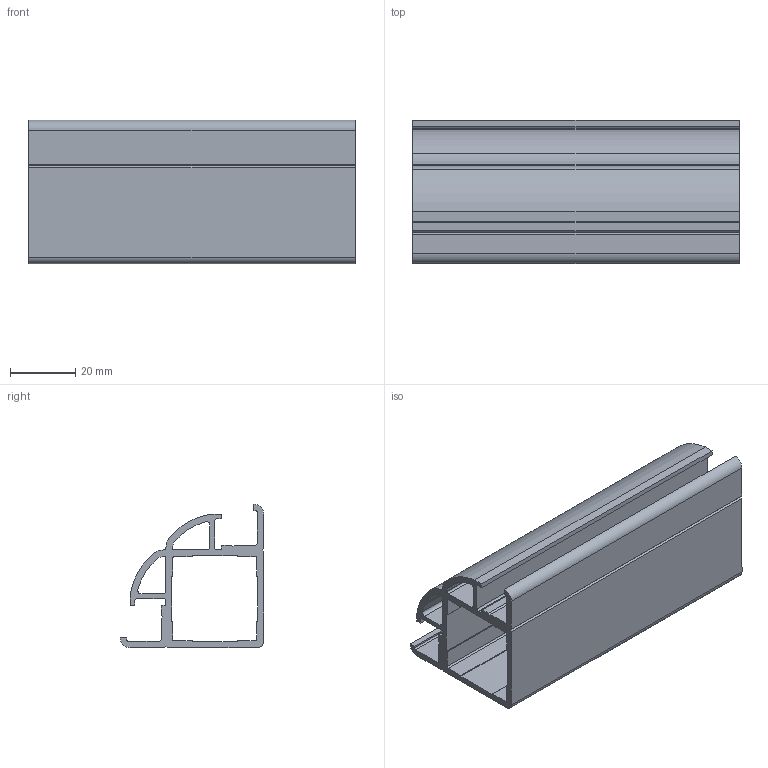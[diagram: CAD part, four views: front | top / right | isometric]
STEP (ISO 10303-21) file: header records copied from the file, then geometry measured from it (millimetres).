
FILE_DESCRIPTION (( 'STEP AP203' ), '1' );
FILE_NAME ('B30033A.STEP', '2017-03-22T11:29:55', ( 'Localadmin' ), ( 'Microsoft' ), 'SwSTEP 2.0', 'SolidWorks 2016', '' );
FILE_SCHEMA (( 'CONFIG_CONTROL_DESIGN' ));
Length unit declared in the file: millimetre
Products named in the file (1): B30033A
Bounding box: 100 x 44 x 44 mm (x, y, z)
Volume: 41432.1 mm3; surface area: 39790.1 mm2
Topology: 1 solids, 1 shells, 100 faces, 294 edges, 196 vertices
Faces by surface type: plane 64, cylinder 36
Entity records: 3419 total; most frequent: CARTESIAN_POINT 591, ORIENTED_EDGE 588, DIRECTION 568, EDGE_CURVE 294, VECTOR 222, LINE 222, VERTEX_POINT 196, AXIS2_PLACEMENT_3D 173
